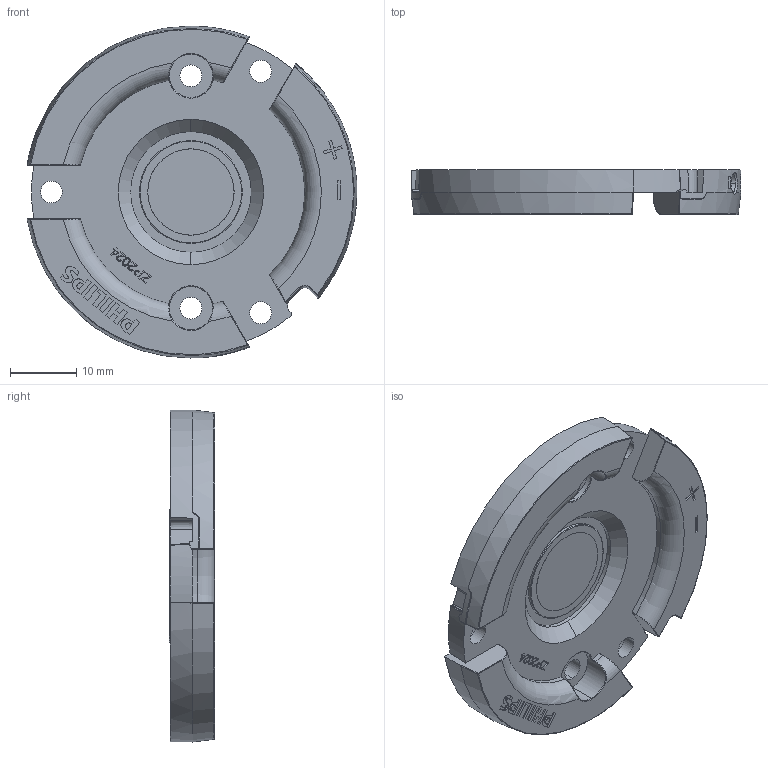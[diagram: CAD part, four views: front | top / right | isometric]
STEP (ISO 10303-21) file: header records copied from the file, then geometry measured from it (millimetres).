
FILE_DESCRIPTION(/* description */ (''),/* implementation_level */ '2;1');
FILE_NAME(/* name */ '2024_0701.stp',/* time_stamp */ '2016-07-01T13:43:24+08:00',/* author */ (''),/* organization */ (''),/* preprocessor_version */ 'ST-DEVELOPER v11',/* originating_system */ 'SIEMENS PLM Software NX 7.5',/* authorisation */ '');
FILE_SCHEMA (('CONFIG_CONTROL_DESIGN'));
Length unit declared in the file: millimetre
Products named in the file (1): 31007DA0m84e
Bounding box: 49.67 x 6.8 x 50 mm (x, y, z)
Volume: 7967.9 mm3; surface area: 6154.9 mm2
Topology: 2 solids, 2 shells, 769 faces, 2172 edges, 1440 vertices
Faces by surface type: plane 503, cylinder 125, extrusion 68, bspline 27, torus 22, cone 14, sphere 10
Entity records: 29687 total; most frequent: CARTESIAN_POINT 10055, ORIENTED_EDGE 4334, DIRECTION 3611, EDGE_CURVE 2167, VECTOR 1551, LINE 1483, VERTEX_POINT 1440, AXIS2_PLACEMENT_3D 1030
